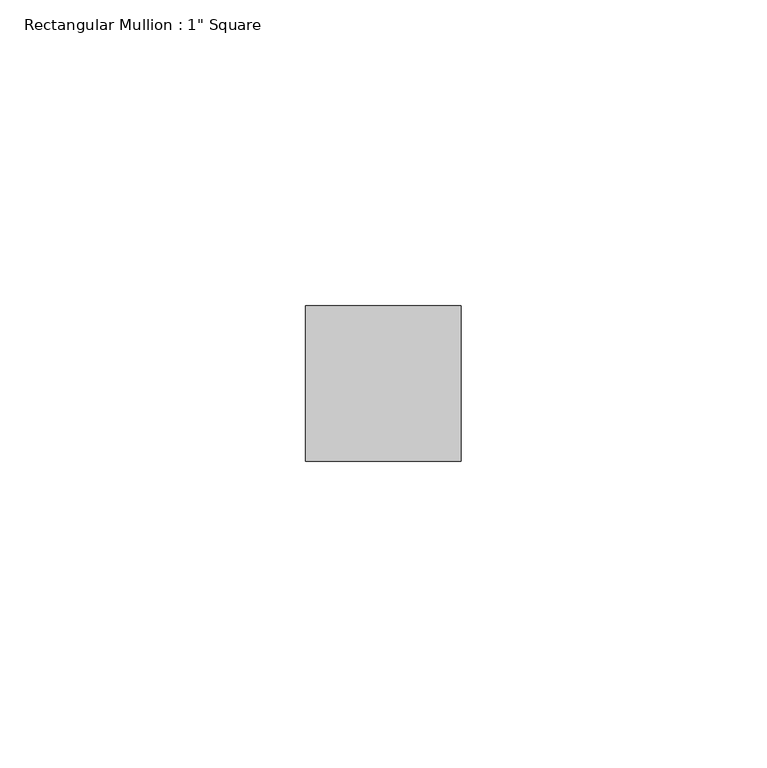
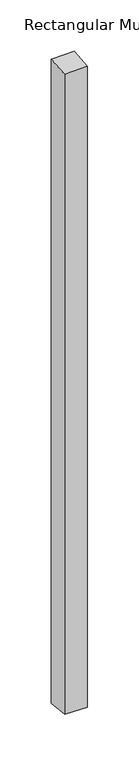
"""IFC4 building model written with IfcOpenShell, lengths in millimetres: member geometry."""

from ifc_helpers import new_model, si_unit, origin, place, context, project, spatial, faceted_brep, source, transform, mapped, element, save


def member_b6c57be0(model_context):
    return source(origin(), model_context, "Body", "Brep", [
        faceted_brep([(-25.4, 12.7, 0.7410012), (0.0, 12.7, 1.0506793), (0.0, 12.7, -763.0506793), (-25.4, 12.7, -762.7410012), (-25.4, -12.7, -1.3603574), (-25.4, -12.7, -760.6396426), (0.0, -12.7, -1.0506793), (0.0, -12.7, -760.9493207)], [[[0, 1, 2, 3]], [[4, 0, 3, 5]], [[6, 4, 5, 7]], [[1, 6, 7, 2]], [[1, 0, 4, 6]], [[2, 7, 5, 3]]]),
    ])


if __name__ == "__main__":
    model = new_model("IFC4")
    model_context = context("Model", 3, world=origin())
    ifc_project = project(units=[si_unit("LENGTHUNIT", "METRE", prefix="MILLI")], contexts=[model_context])
    site = spatial("IfcSite", under=ifc_project)
    building = spatial("IfcBuilding", under=site)
    placement = place(None, origin())
    member_shape = member_b6c57be0(model_context)
    element("IfcMember", 1, ObjectType="Rectangular Mullion : 1\" Square", at=placement, inside=building, context=model_context, shape_type="MappedRepresentation", body=[
        mapped(member_shape, transform((0.0, 0.0, 0.0), x_axis=(1.0, 0.0, 0.0), y_axis=(0.0, 1.0, 0.0), z_axis=(0.0, 0.0, 1.0))),
    ])
    save(model, "model.ifc")
